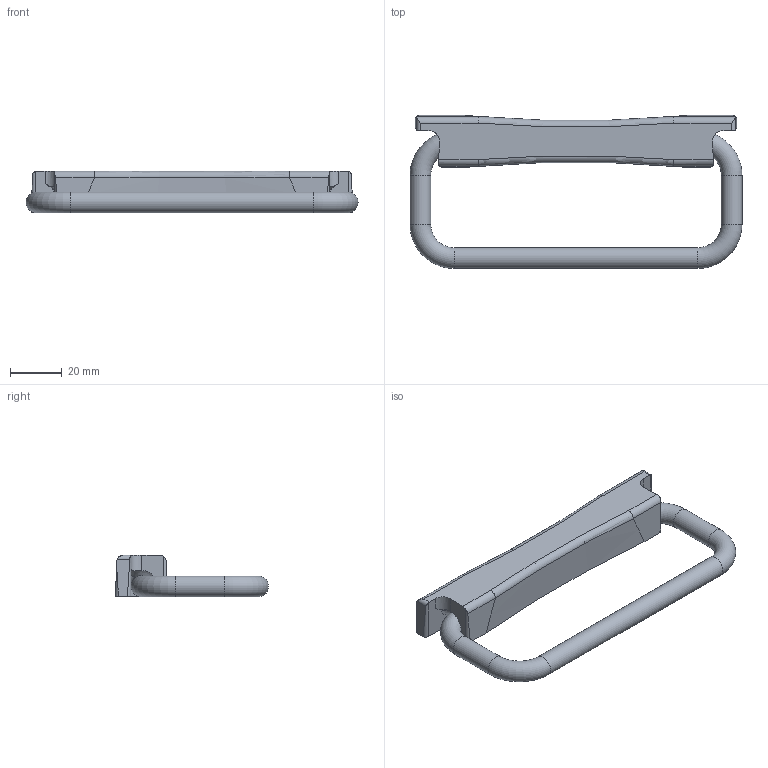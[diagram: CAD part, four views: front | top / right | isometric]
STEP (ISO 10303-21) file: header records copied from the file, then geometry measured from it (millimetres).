
FILE_DESCRIPTION( ( 'STEP AP203' ), '1' );
FILE_NAME( 'C:/Temp/Ganter_Step_05_03_2020/data/1_2/gn425_9/Stainless Steel-Folding handle GN 425.9-120-NI-A-2-SW (deactivated).stp', '2020-03-05T10:14:43', ( 'License CC BY-ND 4.0' ), ( 'CADENAS' ), ' ', 'PARTsolutions', ' ' );
FILE_SCHEMA( ( 'CONFIG_CONTROL_DESIGN' ) );
Length unit declared in the file: millimetre
Products named in the file (3): Stainless Steel-Folding handle GN 425.9-120-NI-A-2-SW (deactivated); _Edelstahl-Klappgriff GN 425.9-120-NI-A-2-SW (zugeklappt)-1; _Edelstahl-Klappgriff GN 425.9-120-NI-A-2-SW (zugeklappt)-2
Assembly tree (2 placements, depth 2):
  Stainless Steel-Folding handle GN 425.9-120-NI-A-2-SW (deactivated)
    _Edelstahl-Klappgriff GN 425.9-120-NI-A-2-SW (zugeklappt)-1
    _Edelstahl-Klappgriff GN 425.9-120-NI-A-2-SW (zugeklappt)-2
Bounding box: 128 x 59 x 16 mm (x, y, z)
Volume: 40155.8 mm3; surface area: 15139.3 mm2
Topology: 2 solids, 2 shells, 67 faces, 178 edges, 115 vertices
Faces by surface type: plane 28, cylinder 25, torus 10, cone 4
Full cylindrical faces by diameter (mm): 4.917 x2, 8 x5
Entity records: 2333 total; most frequent: CARTESIAN_POINT 651, DIRECTION 328, ORIENTED_EDGE 316, EDGE_CURVE 158, AXIS2_PLACEMENT_3D 128, VERTEX_POINT 112, EDGE_LOOP 82, FACE_OUTER_BOUND 78
